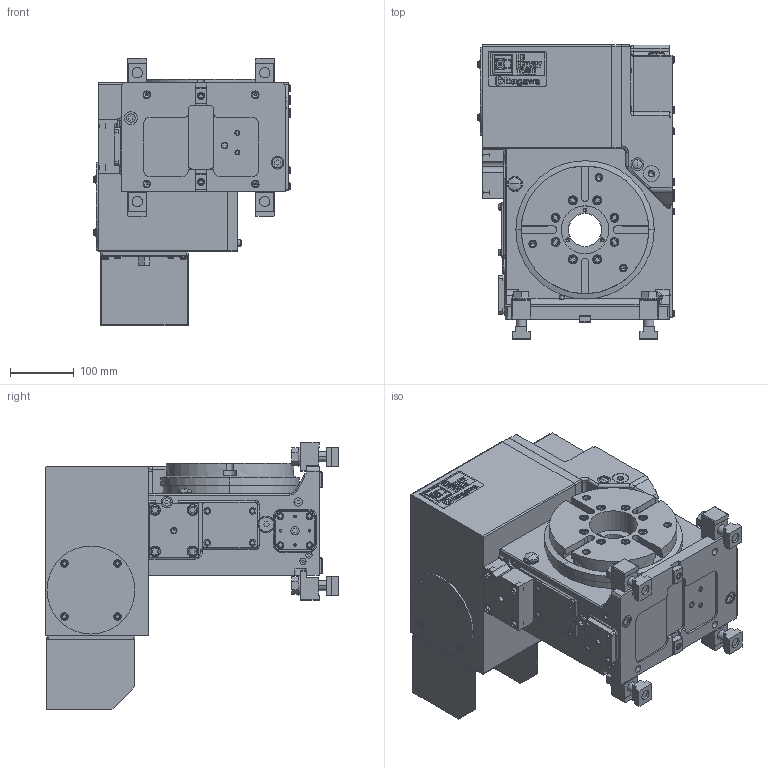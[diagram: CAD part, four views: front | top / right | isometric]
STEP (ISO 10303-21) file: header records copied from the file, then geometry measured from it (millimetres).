
FILE_DESCRIPTION (( 'STEP AP214' ), '1' );
FILE_NAME ('TUX200BF.STEP', '2020-03-28T00:10:48', ( '' ), ( '' ), 'SwSTEP 2.0', 'SolidWorks 2017', '' );
FILE_SCHEMA (( 'AUTOMOTIVE_DESIGN' ));
Length unit declared in the file: millimetre
Products named in the file (16): TUX200BF; CLAMPING PARTS(61E430436); TUX200BFホンタイ; コネクタカバー（61E3639910）; コネクタプレート（61E4471133）MR200LAF04; キタガワシール; SMC KQ2E06-02; 僇僶乕丂俹(61E4458433)MR250RAM01; モータケース(TUX200BF); プレート(TUX200BF); ガイドブロック(61M4197783); TUX200B01 クミタテ(61E112350); オイルゲージ 207; 僆僀儖僄儗儊儞僩丂俥俤亅侾俀丂僀儅僆; テーブル(61E3647021)TM201H00; 儂儞僞僀ASSY(61E1123473)TUX200B01
Assembly tree (19 placements, depth 4):
  TUX200BF
    TUX200BFホンタイ
      TUX200B01 クミタテ(61E112350)
        儂儞僞僀ASSY(61E1123473)TUX200B01
        テーブル(61E3647021)TM201H00
        僆僀儖僄儗儊儞僩丂俥俤亅侾俀丂僀儅僆
        オイルゲージ 207
      ガイドブロック(61M4197783)  x2
      プレート(TUX200BF)
      モータケース(TUX200BF)
      僇僶乕丂俹(61E4458433)MR250RAM01
      SMC KQ2E06-02
      キタガワシール
      コネクタプレート（61E4471133）MR200LAF04
      コネクタカバー（61E3639910）
    CLAMPING PARTS(61E430436)  x4
Bounding box: 309.1 x 461 x 420 mm (x, y, z)
Volume: 22142525.4 mm3; surface area: 1246562.1 mm2
Topology: 17 solids, 34 shells, 3612 faces, 9244 edges, 6023 vertices
Faces by surface type: plane 2657, cylinder 716, cone 147, torus 72, bspline 16, sphere 4
Entity records: 119902 total; most frequent: CARTESIAN_POINT 19099, ORIENTED_EDGE 17470, DIRECTION 17134, EDGE_CURVE 8735, VECTOR 7026, LINE 7026, VERTEX_POINT 5741, AXIS2_PLACEMENT_3D 5054
